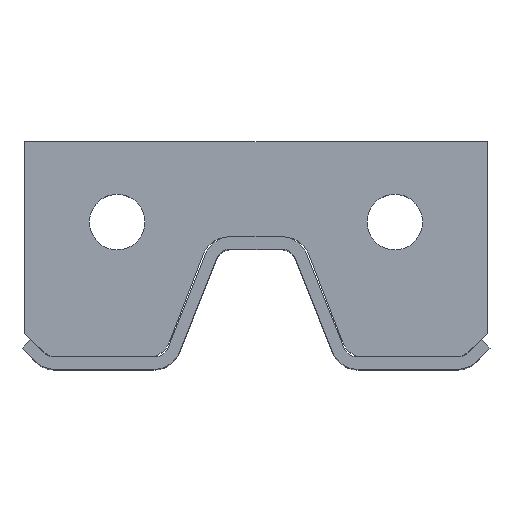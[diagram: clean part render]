
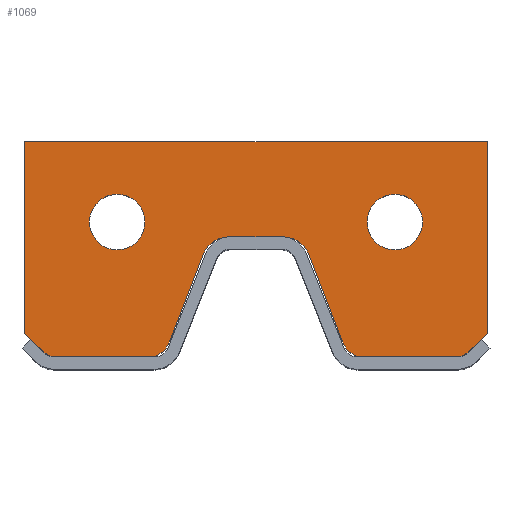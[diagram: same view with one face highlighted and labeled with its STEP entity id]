
A CAD part, top view. The second image highlights one B-rep face of the part: STEP entity #1069.
In plain terms, the highlighted planar face has unit normal (0, 0, 1).
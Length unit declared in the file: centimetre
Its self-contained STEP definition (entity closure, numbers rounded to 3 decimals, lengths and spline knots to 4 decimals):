
#38=FACE_BOUND('',#188,.T.);
#39=FACE_BOUND('',#189,.T.);
#69=PLANE('',#1176);
#123=FACE_OUTER_BOUND('',#187,.T.);
#187=EDGE_LOOP('',(#974,#975,#976,#977,#978,#979,#980,#981,#982,#983,#984,
#985,#986,#987,#988,#989));
#188=EDGE_LOOP('',(#990));
#189=EDGE_LOOP('',(#991));
#256=LINE('',#1707,#358);
#261=LINE('',#1721,#363);
#265=LINE('',#1733,#367);
#268=LINE('',#1739,#370);
#271=LINE('',#1745,#373);
#274=LINE('',#1751,#376);
#277=LINE('',#1757,#379);
#281=LINE('',#1769,#383);
#285=LINE('',#1781,#387);
#289=LINE('',#1793,#391);
#358=VECTOR('',#1397,1.);
#363=VECTOR('',#1410,1.);
#367=VECTOR('',#1422,1.);
#370=VECTOR('',#1427,1.);
#373=VECTOR('',#1432,1.);
#376=VECTOR('',#1437,1.);
#379=VECTOR('',#1442,1.);
#383=VECTOR('',#1454,1.);
#387=VECTOR('',#1466,1.);
#391=VECTOR('',#1478,1.);
#427=CIRCLE('',#1143,9.);
#429=CIRCLE('',#1146,9.);
#430=CIRCLE('',#1149,8.);
#432=CIRCLE('',#1153,8.);
#434=CIRCLE('',#1161,8.);
#436=CIRCLE('',#1165,8.);
#438=CIRCLE('',#1169,8.);
#440=CIRCLE('',#1173,8.);
#507=VERTEX_POINT('',#1695);
#509=VERTEX_POINT('',#1701);
#510=VERTEX_POINT('',#1705);
#511=VERTEX_POINT('',#1706);
#514=VERTEX_POINT('',#1714);
#516=VERTEX_POINT('',#1720);
#518=VERTEX_POINT('',#1726);
#520=VERTEX_POINT('',#1732);
#522=VERTEX_POINT('',#1738);
#524=VERTEX_POINT('',#1744);
#526=VERTEX_POINT('',#1750);
#528=VERTEX_POINT('',#1756);
#530=VERTEX_POINT('',#1762);
#532=VERTEX_POINT('',#1768);
#534=VERTEX_POINT('',#1774);
#536=VERTEX_POINT('',#1780);
#538=VERTEX_POINT('',#1786);
#540=VERTEX_POINT('',#1792);
#640=EDGE_CURVE('',#507,#507,#427,.T.);
#643=EDGE_CURVE('',#509,#509,#429,.T.);
#644=EDGE_CURVE('',#510,#511,#256,.T.);
#648=EDGE_CURVE('',#511,#514,#430,.T.);
#651=EDGE_CURVE('',#514,#516,#261,.T.);
#654=EDGE_CURVE('',#516,#518,#432,.T.);
#657=EDGE_CURVE('',#518,#520,#265,.T.);
#660=EDGE_CURVE('',#520,#522,#268,.T.);
#663=EDGE_CURVE('',#522,#524,#271,.T.);
#666=EDGE_CURVE('',#524,#526,#274,.T.);
#669=EDGE_CURVE('',#526,#528,#277,.T.);
#672=EDGE_CURVE('',#528,#530,#434,.T.);
#675=EDGE_CURVE('',#530,#532,#281,.T.);
#678=EDGE_CURVE('',#532,#534,#436,.T.);
#681=EDGE_CURVE('',#534,#536,#285,.T.);
#684=EDGE_CURVE('',#536,#538,#438,.T.);
#687=EDGE_CURVE('',#538,#540,#289,.T.);
#690=EDGE_CURVE('',#540,#510,#440,.T.);
#974=ORIENTED_EDGE('',*,*,#690,.T.);
#975=ORIENTED_EDGE('',*,*,#644,.T.);
#976=ORIENTED_EDGE('',*,*,#648,.T.);
#977=ORIENTED_EDGE('',*,*,#651,.T.);
#978=ORIENTED_EDGE('',*,*,#654,.T.);
#979=ORIENTED_EDGE('',*,*,#657,.T.);
#980=ORIENTED_EDGE('',*,*,#660,.T.);
#981=ORIENTED_EDGE('',*,*,#663,.T.);
#982=ORIENTED_EDGE('',*,*,#666,.T.);
#983=ORIENTED_EDGE('',*,*,#669,.T.);
#984=ORIENTED_EDGE('',*,*,#672,.T.);
#985=ORIENTED_EDGE('',*,*,#675,.T.);
#986=ORIENTED_EDGE('',*,*,#678,.T.);
#987=ORIENTED_EDGE('',*,*,#681,.T.);
#988=ORIENTED_EDGE('',*,*,#684,.T.);
#989=ORIENTED_EDGE('',*,*,#687,.T.);
#990=ORIENTED_EDGE('',*,*,#643,.F.);
#991=ORIENTED_EDGE('',*,*,#640,.F.);
#1069=ADVANCED_FACE('',(#123,#38,#39),#69,.F.);
#1143=AXIS2_PLACEMENT_3D('',#1697,#1386,#1387);
#1146=AXIS2_PLACEMENT_3D('',#1703,#1393,#1394);
#1149=AXIS2_PLACEMENT_3D('',#1715,#1403,#1404);
#1153=AXIS2_PLACEMENT_3D('',#1727,#1415,#1416);
#1161=AXIS2_PLACEMENT_3D('',#1763,#1447,#1448);
#1165=AXIS2_PLACEMENT_3D('',#1775,#1459,#1460);
#1169=AXIS2_PLACEMENT_3D('',#1787,#1471,#1472);
#1173=AXIS2_PLACEMENT_3D('',#1798,#1483,#1484);
#1176=AXIS2_PLACEMENT_3D('',#1801,#1489,#1490);
#1386=DIRECTION('center_axis',(0.,0.,1.));
#1387=DIRECTION('ref_axis',(1.,0.,0.));
#1393=DIRECTION('center_axis',(0.,0.,1.));
#1394=DIRECTION('ref_axis',(1.,0.,0.));
#1397=DIRECTION('',(0.359,-0.933,0.));
#1403=DIRECTION('center_axis',(0.,0.,1.));
#1404=DIRECTION('ref_axis',(-0.566,-0.824,0.));
#1410=DIRECTION('',(1.,0.,0.));
#1415=DIRECTION('center_axis',(0.,0.,1.));
#1416=DIRECTION('ref_axis',(0.383,-0.924,0.));
#1422=DIRECTION('',(0.707,0.707,0.));
#1427=DIRECTION('',(0.,1.,0.));
#1432=DIRECTION('',(-1.,0.,0.));
#1437=DIRECTION('',(0.,-1.,0.));
#1442=DIRECTION('',(0.707,-0.707,0.));
#1447=DIRECTION('center_axis',(0.,0.,1.));
#1448=DIRECTION('ref_axis',(-0.383,-0.924,0.));
#1454=DIRECTION('',(1.,0.,0.));
#1459=DIRECTION('center_axis',(0.,0.,1.));
#1460=DIRECTION('ref_axis',(0.566,-0.824,0.));
#1466=DIRECTION('',(0.359,0.933,0.));
#1471=DIRECTION('center_axis',(0.,0.,-1.));
#1472=DIRECTION('ref_axis',(-0.566,0.824,0.));
#1478=DIRECTION('',(1.,0.,0.));
#1483=DIRECTION('center_axis',(0.,0.,-1.));
#1484=DIRECTION('ref_axis',(0.566,0.824,0.));
#1489=DIRECTION('center_axis',(0.,0.,-1.));
#1490=DIRECTION('ref_axis',(-1.,0.,0.));
#1695=CARTESIAN_POINT('',(36.,48.,0.));
#1697=CARTESIAN_POINT('Origin',(45.,48.,0.));
#1701=CARTESIAN_POINT('',(-54.,48.,0.));
#1703=CARTESIAN_POINT('Origin',(-45.,48.,0.));
#1705=CARTESIAN_POINT('',(16.9724,37.8718,0.));
#1706=CARTESIAN_POINT('',(28.0276,9.1282,0.));
#1707=CARTESIAN_POINT('',(16.9724,37.8718,0.));
#1714=CARTESIAN_POINT('',(35.4944,4.,0.));
#1715=CARTESIAN_POINT('Origin',(35.4944,12.,0.));
#1720=CARTESIAN_POINT('',(63.6863,4.,0.));
#1721=CARTESIAN_POINT('',(35.4944,4.,0.));
#1726=CARTESIAN_POINT('',(69.3431,6.3431,0.));
#1727=CARTESIAN_POINT('Origin',(63.6863,12.,0.));
#1732=CARTESIAN_POINT('',(75.,12.,0.));
#1733=CARTESIAN_POINT('',(69.3431,6.3431,0.));
#1738=CARTESIAN_POINT('',(75.,74.,0.));
#1739=CARTESIAN_POINT('',(75.,12.,0.));
#1744=CARTESIAN_POINT('',(-75.,74.,0.));
#1745=CARTESIAN_POINT('',(75.,74.,0.));
#1750=CARTESIAN_POINT('',(-75.,12.,0.));
#1751=CARTESIAN_POINT('',(-75.,74.,0.));
#1756=CARTESIAN_POINT('',(-69.3431,6.3431,0.));
#1757=CARTESIAN_POINT('',(-75.,12.,0.));
#1762=CARTESIAN_POINT('',(-63.6863,4.,0.));
#1763=CARTESIAN_POINT('Origin',(-63.6863,12.,0.));
#1768=CARTESIAN_POINT('',(-35.4944,4.,0.));
#1769=CARTESIAN_POINT('',(-63.6863,4.,0.));
#1774=CARTESIAN_POINT('',(-28.0276,9.1282,0.));
#1775=CARTESIAN_POINT('Origin',(-35.4944,12.,0.));
#1780=CARTESIAN_POINT('',(-16.9724,37.8718,0.));
#1781=CARTESIAN_POINT('',(-28.0276,9.1282,0.));
#1786=CARTESIAN_POINT('',(-9.5056,43.,0.));
#1787=CARTESIAN_POINT('Origin',(-9.5056,35.,0.));
#1792=CARTESIAN_POINT('',(9.5056,43.,0.));
#1793=CARTESIAN_POINT('',(-9.5056,43.,0.));
#1798=CARTESIAN_POINT('Origin',(9.5056,35.,0.));
#1801=CARTESIAN_POINT('Origin',(35.,48.,0.));
